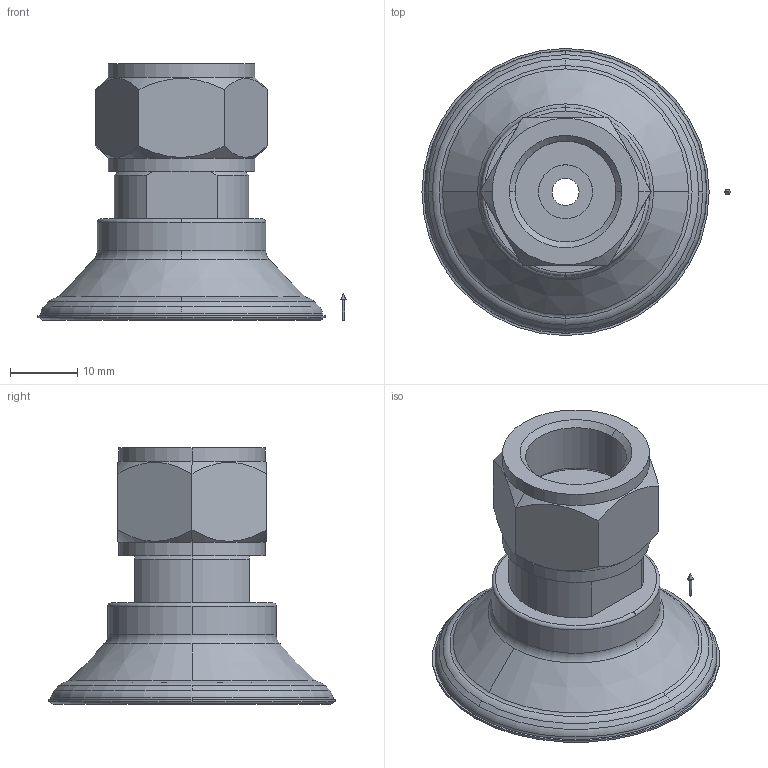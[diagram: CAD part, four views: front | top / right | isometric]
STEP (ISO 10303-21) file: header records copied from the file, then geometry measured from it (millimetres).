
FILE_DESCRIPTION(('STEP AP214'),'1');
FILE_NAME('10_01_01_10708.stp','2020-10-24T00:25:00',('TraceParts'),('TraceParts S.A.'),'Spatial InterOp 3D',' ',' ');
FILE_SCHEMA(('AUTOMOTIVE_DESIGN { 1 0 10303 214 1 1 1 1 }'));
Length unit declared in the file: millimetre
Products named in the file (1): 10_01_01_10708_1
Bounding box: 45.7 x 42.6 x 38 mm (x, y, z)
Volume: 12969.5 mm3; surface area: 7344.1 mm2
Topology: 2 solids, 2 shells, 114 faces, 266 edges, 167 vertices
Faces by surface type: cone 34, cylinder 32, plane 24, torus 24
Entity records: 4224 total; most frequent: DIRECTION 652, CARTESIAN_POINT 579, ORIENTED_EDGE 528, AXIS2_PLACEMENT_3D 288, EDGE_CURVE 264, CIRCLE 172, VERTEX_POINT 167, EDGE_LOOP 129
